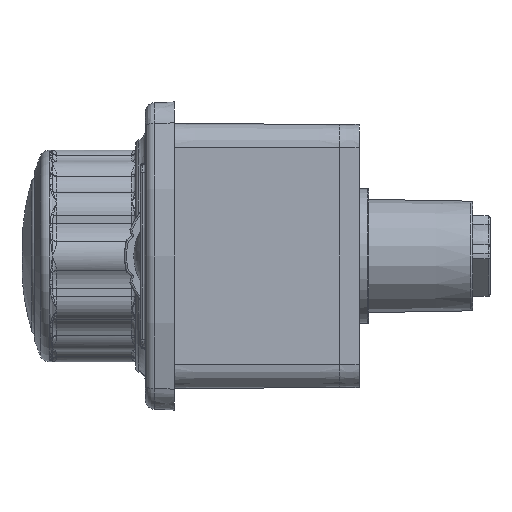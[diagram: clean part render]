
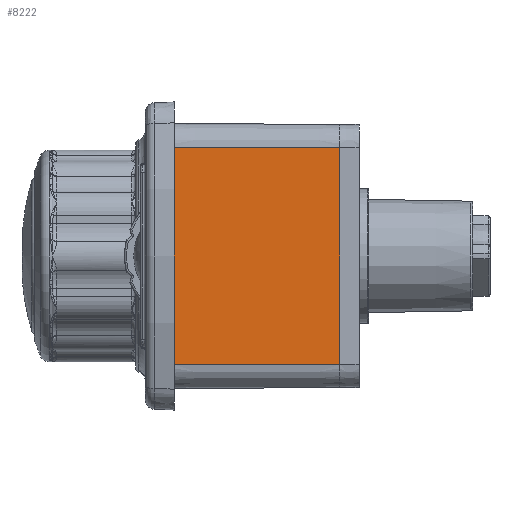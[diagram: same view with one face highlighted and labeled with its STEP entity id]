
A CAD part, left-side view. The second image highlights one B-rep face of the part: STEP entity #8222.
In plain terms, the highlighted planar face has unit normal (-1, -0.004, 0).
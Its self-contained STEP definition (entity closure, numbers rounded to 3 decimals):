
#2387 = VERTEX_POINT ( 'NONE', #39340 ) ;
#5633 = LINE ( 'NONE', #33498, #61549 ) ;
#6353 = CARTESIAN_POINT ( 'NONE',  ( -48.775, -17.2, -11.25 ) ) ;
#7450 = EDGE_CURVE ( 'NONE', #44754, #2387, #5633, .T. ) ;
#8222 = ADVANCED_FACE ( 'NONE', ( #30800 ), #45273, .T. ) ;
#12511 = CARTESIAN_POINT ( 'NONE',  ( -48.775, -17.2, 11.25 ) ) ;
#15491 = CARTESIAN_POINT ( 'NONE',  ( -48.85, 0., 11.25 ) ) ;
#17203 = DIRECTION ( 'NONE',  ( -1., -0.004, 0. ) ) ;
#19019 = VERTEX_POINT ( 'NONE', #6353 ) ;
#19122 = DIRECTION ( 'NONE',  ( -0.004, 1., 0. ) ) ;
#20116 = VECTOR ( 'NONE', #55558, 1000. ) ;
#20814 = VECTOR ( 'NONE', #51405, 1000. ) ;
#21235 = ORIENTED_EDGE ( 'NONE', *, *, #48999, .F. ) ;
#24811 = CARTESIAN_POINT ( 'NONE',  ( -48.775, -17.2, 11.25 ) ) ;
#27014 = LINE ( 'NONE', #35620, #20116 ) ;
#27841 = ORIENTED_EDGE ( 'NONE', *, *, #46279, .T. ) ;
#29968 = LINE ( 'NONE', #31446, #20814 ) ;
#30800 = FACE_OUTER_BOUND ( 'NONE', #62396, .T. ) ;
#31446 = CARTESIAN_POINT ( 'NONE',  ( -48.85, 0., 11.25 ) ) ;
#33498 = CARTESIAN_POINT ( 'NONE',  ( -48.85, 0., 11.25 ) ) ;
#34467 = B_SPLINE_CURVE_WITH_KNOTS ( 'NONE', 3,
 ( #12511, #36894, #46782, #36269 ),
 .UNSPECIFIED., .F., .F.,
 ( 4, 4 ),
 ( 0., 1. ),
 .UNSPECIFIED. ) ;
#35620 = CARTESIAN_POINT ( 'NONE',  ( -48.85, 0., -11.25 ) ) ;
#36036 = VERTEX_POINT ( 'NONE', #60164 ) ;
#36269 = CARTESIAN_POINT ( 'NONE',  ( -48.775, -17.2, -11.25 ) ) ;
#36676 = DIRECTION ( 'NONE',  ( 0.004, -1., 0. ) ) ;
#36894 = CARTESIAN_POINT ( 'NONE',  ( -48.775, -17.2, 3.75 ) ) ;
#39340 = CARTESIAN_POINT ( 'NONE',  ( -48.85, 0., 11.25 ) ) ;
#44754 = VERTEX_POINT ( 'NONE', #24811 ) ;
#45273 = PLANE ( 'NONE',  #63096 ) ;
#46279 = EDGE_CURVE ( 'NONE', #2387, #36036, #29968, .T. ) ;
#46782 = CARTESIAN_POINT ( 'NONE',  ( -48.775, -17.2, -3.75 ) ) ;
#48999 = EDGE_CURVE ( 'NONE', #44754, #19019, #34467, .T. ) ;
#51405 = DIRECTION ( 'NONE',  ( 0., 0., -1. ) ) ;
#53211 = EDGE_CURVE ( 'NONE', #19019, #36036, #27014, .T. ) ;
#54367 = ORIENTED_EDGE ( 'NONE', *, *, #7450, .T. ) ;
#55558 = DIRECTION ( 'NONE',  ( -0.004, 1., 0. ) ) ;
#59185 = ORIENTED_EDGE ( 'NONE', *, *, #53211, .F. ) ;
#60164 = CARTESIAN_POINT ( 'NONE',  ( -48.85, 0., -11.25 ) ) ;
#61549 = VECTOR ( 'NONE', #19122, 1000. ) ;
#62396 = EDGE_LOOP ( 'NONE', ( #27841, #59185, #21235, #54367 ) ) ;
#63096 = AXIS2_PLACEMENT_3D ( 'NONE', #15491, #17203, #36676 ) ;
